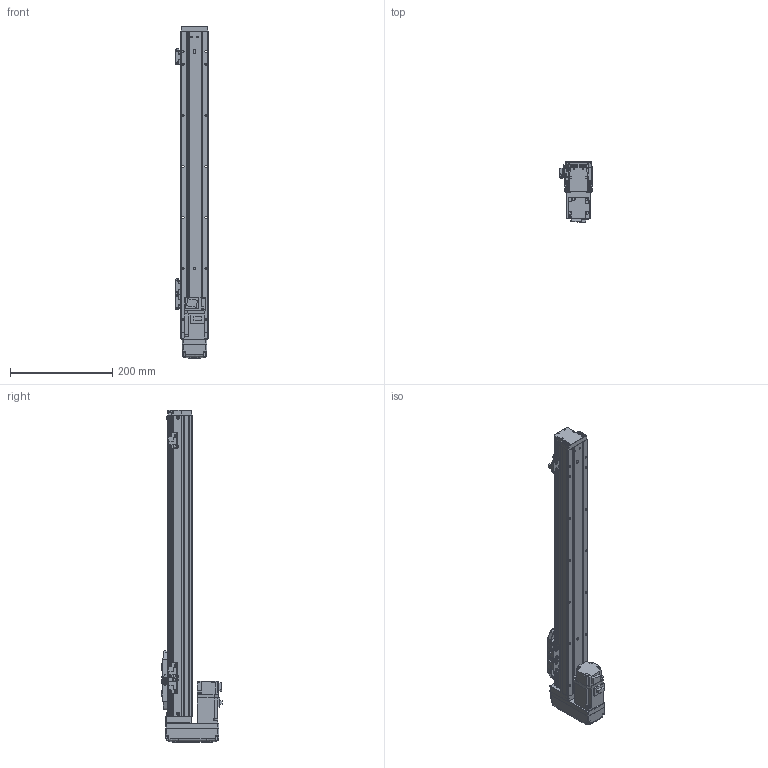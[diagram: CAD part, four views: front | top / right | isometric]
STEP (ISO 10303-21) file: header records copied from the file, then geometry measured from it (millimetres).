
FILE_DESCRIPTION (( 'STEP AP203' ), '1' );
FILE_NAME ('GTH5-450-BM-M10-C4.step', '2022-09-23T00:47:36', ( '微软用户' ), ( '微软中国' ), 'SwSTEP 2.0', 'SolidWorks 2020', '' );
FILE_SCHEMA (( 'CONFIG_CONTROL_DESIGN' ));
Length unit declared in the file: millimetre
Products named in the file (19): GBT96.1-2002 3×0.8; GTH50-026; GTH50-001_450; GTH50-024; GTH5-450-BM-M10-C4; GBT 70.1-M4×16; GBT 70.1-M2.5×6; GTH50-003; GTH50-028; GTH50-006; GTH50-013; GTH50-022-1; GTH50-004; GTH50-023; HG-KR13; GBT 70.3-M3℅6; GBT 70.1-M3℅6; GTH50-027-1_BTHA50-027-2; BTH-M3X5X6
Assembly tree (57 placements, depth 2):
  GTH5-450-BM-M10-C4
    GTH50-006
    GTH50-004
    GBT 70.3-M3℅6  x4
    BTH-M3X5X6  x8
    GTH50-001_450
    GBT 70.1-M4×16  x8
    GTH50-003
    GTH50-013
    GTH50-023  x3
    GBT 70.1-M3℅6  x12
    GBT96.1-2002 3×0.8  x6
    GTH50-024  x3
    GBT 70.1-M2.5×6  x2
    GTH50-028  x2
    GTH50-022-1
    HG-KR13
    GTH50-027-1_BTHA50-027-2
    GTH50-026
Bounding box: 63.8 x 118.9 x 650 mm (x, y, z)
Volume: 1510012.9 mm3; surface area: 268424.5 mm2
Topology: 59 solids, 59 shells, 2156 faces, 5004 edges, 3068 vertices
Faces by surface type: plane 1142, cylinder 585, cone 219, torus 162, bspline 40, sphere 8
Entity records: 40012 total; most frequent: CARTESIAN_POINT 7923, DIRECTION 6157, ORIENTED_EDGE 5922, EDGE_CURVE 2961, AXIS2_PLACEMENT_3D 2140, LINE 1877, VECTOR 1877, VERTEX_POINT 1870
